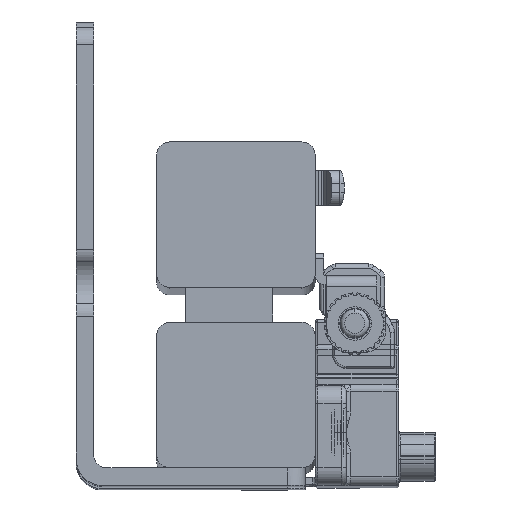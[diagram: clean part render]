
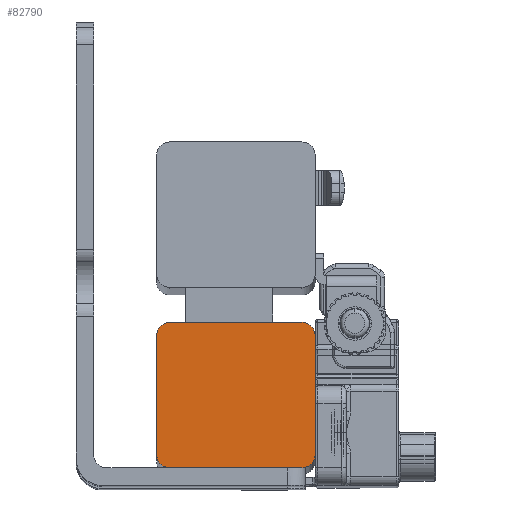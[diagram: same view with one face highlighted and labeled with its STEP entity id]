
A CAD part, top view. The second image highlights one B-rep face of the part: STEP entity #82790.
In plain terms, the highlighted planar face has unit normal (0, 0, 1).
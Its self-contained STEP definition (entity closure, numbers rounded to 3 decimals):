
#118 = AXIS2_PLACEMENT_3D ( 'NONE', #82104, #4705, #74575 ) ;
#1024 = CARTESIAN_POINT ( 'NONE',  ( -475.979, 120.715, 207.204 ) ) ;
#2350 = EDGE_CURVE ( 'NONE', #39976, #26036, #17339, .T. ) ;
#3015 = LINE ( 'NONE', #22263, #68535 ) ;
#3579 = DIRECTION ( 'NONE',  ( 0., -1., 0. ) ) ;
#4227 = CIRCLE ( 'NONE', #25637, 1.5 ) ;
#4295 = CARTESIAN_POINT ( 'NONE',  ( -475.979, 134.215, 207.204 ) ) ;
#4626 = EDGE_CURVE ( 'NONE', #16452, #47216, #51166, .T. ) ;
#4705 = DIRECTION ( 'NONE',  ( 0., 0., -1. ) ) ;
#5610 = DIRECTION ( 'NONE',  ( -1., 0., 0. ) ) ;
#11008 = CARTESIAN_POINT ( 'NONE',  ( -477.469, 120.705, 207.204 ) ) ;
#11844 = DIRECTION ( 'NONE',  ( 0., -1., 0. ) ) ;
#14796 = EDGE_CURVE ( 'NONE', #22850, #47216, #59430, .T. ) ;
#16452 = VERTEX_POINT ( 'NONE', #1024 ) ;
#17339 = CIRCLE ( 'NONE', #20043, 1.5 ) ;
#18138 = DIRECTION ( 'NONE',  ( -1., 0., 0. ) ) ;
#20043 = AXIS2_PLACEMENT_3D ( 'NONE', #58100, #78183, #20046 ) ;
#20046 = DIRECTION ( 'NONE',  ( -1., 0., 0. ) ) ;
#22263 = CARTESIAN_POINT ( 'NONE',  ( -475.979, 119.215, 207.204 ) ) ;
#22850 = VERTEX_POINT ( 'NONE', #58462 ) ;
#25484 = EDGE_CURVE ( 'NONE', #39976, #75823, #3015, .T. ) ;
#25637 = AXIS2_PLACEMENT_3D ( 'NONE', #43144, #49859, #37299 ) ;
#26036 = VERTEX_POINT ( 'NONE', #36343 ) ;
#26482 = DIRECTION ( 'NONE',  ( 0., 1., 0. ) ) ;
#27086 = EDGE_LOOP ( 'NONE', ( #60853, #55742, #72881, #59336, #65164, #35495, #63087, #48952 ) ) ;
#27996 = VECTOR ( 'NONE', #3579, 1000. ) ;
#29469 = LINE ( 'NONE', #54986, #59913 ) ;
#29856 = FACE_OUTER_BOUND ( 'NONE', #27086, .T. ) ;
#35495 = ORIENTED_EDGE ( 'NONE', *, *, #60836, .T. ) ;
#36343 = CARTESIAN_POINT ( 'NONE',  ( -493.979, 120.715, 207.204 ) ) ;
#36974 = CARTESIAN_POINT ( 'NONE',  ( -492.479, 119.215, 207.204 ) ) ;
#37299 = DIRECTION ( 'NONE',  ( -1., 0., 0. ) ) ;
#38905 = VECTOR ( 'NONE', #26482, 1000. ) ;
#39976 = VERTEX_POINT ( 'NONE', #36974 ) ;
#39982 = EDGE_CURVE ( 'NONE', #22850, #72310, #29469, .T. ) ;
#41617 = LINE ( 'NONE', #75106, #27996 ) ;
#43144 = CARTESIAN_POINT ( 'NONE',  ( -477.479, 120.715, 207.204 ) ) ;
#47216 = VERTEX_POINT ( 'NONE', #4295 ) ;
#47449 = AXIS2_PLACEMENT_3D ( 'NONE', #11008, #82139, #11844 ) ;
#48952 = ORIENTED_EDGE ( 'NONE', *, *, #25484, .T. ) ;
#49859 = DIRECTION ( 'NONE',  ( 0., 0., -1. ) ) ;
#49921 = CARTESIAN_POINT ( 'NONE',  ( -477.479, 134.215, 207.204 ) ) ;
#50859 = CIRCLE ( 'NONE', #118, 1.5 ) ;
#51166 = LINE ( 'NONE', #64541, #38905 ) ;
#54986 = CARTESIAN_POINT ( 'NONE',  ( -493.979, 135.715, 207.204 ) ) ;
#55000 = CARTESIAN_POINT ( 'NONE',  ( -493.979, 134.215, 207.204 ) ) ;
#55393 = CARTESIAN_POINT ( 'NONE',  ( -477.479, 119.215, 207.204 ) ) ;
#55742 = ORIENTED_EDGE ( 'NONE', *, *, #4626, .T. ) ;
#58100 = CARTESIAN_POINT ( 'NONE',  ( -492.479, 120.715, 207.204 ) ) ;
#58462 = CARTESIAN_POINT ( 'NONE',  ( -477.479, 135.715, 207.204 ) ) ;
#59336 = ORIENTED_EDGE ( 'NONE', *, *, #39982, .T. ) ;
#59430 = CIRCLE ( 'NONE', #67427, 1.5 ) ;
#59913 = VECTOR ( 'NONE', #5610, 1000. ) ;
#60836 = EDGE_CURVE ( 'NONE', #74919, #26036, #41617, .T. ) ;
#60853 = ORIENTED_EDGE ( 'NONE', *, *, #75666, .F. ) ;
#63087 = ORIENTED_EDGE ( 'NONE', *, *, #2350, .F. ) ;
#63329 = EDGE_CURVE ( 'NONE', #74919, #72310, #50859, .T. ) ;
#64541 = CARTESIAN_POINT ( 'NONE',  ( -475.979, 119.215, 207.204 ) ) ;
#65164 = ORIENTED_EDGE ( 'NONE', *, *, #63329, .F. ) ;
#67427 = AXIS2_PLACEMENT_3D ( 'NONE', #49921, #75457, #18138 ) ;
#68331 = PLANE ( 'NONE',  #47449 ) ;
#68535 = VECTOR ( 'NONE', #74123, 1000. ) ;
#72310 = VERTEX_POINT ( 'NONE', #74566 ) ;
#72881 = ORIENTED_EDGE ( 'NONE', *, *, #14796, .F. ) ;
#74123 = DIRECTION ( 'NONE',  ( 1., 0., 0. ) ) ;
#74566 = CARTESIAN_POINT ( 'NONE',  ( -492.479, 135.715, 207.204 ) ) ;
#74575 = DIRECTION ( 'NONE',  ( -1., 0., 0. ) ) ;
#74919 = VERTEX_POINT ( 'NONE', #55000 ) ;
#75106 = CARTESIAN_POINT ( 'NONE',  ( -493.979, 119.215, 207.204 ) ) ;
#75457 = DIRECTION ( 'NONE',  ( 0., 0., -1. ) ) ;
#75666 = EDGE_CURVE ( 'NONE', #16452, #75823, #4227, .T. ) ;
#75823 = VERTEX_POINT ( 'NONE', #55393 ) ;
#78183 = DIRECTION ( 'NONE',  ( 0., 0., -1. ) ) ;
#82104 = CARTESIAN_POINT ( 'NONE',  ( -492.479, 134.215, 207.204 ) ) ;
#82139 = DIRECTION ( 'NONE',  ( 0., 0., -1. ) ) ;
#82790 = ADVANCED_FACE ( 'NONE', ( #29856 ), #68331, .F. ) ;
